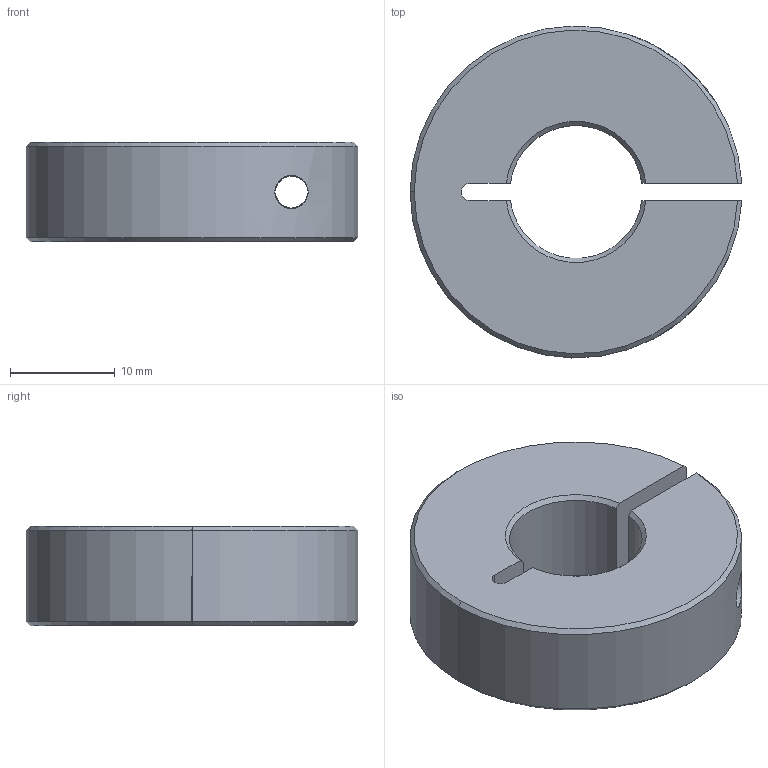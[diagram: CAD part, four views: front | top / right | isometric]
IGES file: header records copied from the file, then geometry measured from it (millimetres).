
Global section: file name: C:\Documents and Settings\Administrator\Desktop\Transfer Temp\collar0500.igs; native system: AutoDesk Inventor R2.0 ; preprocessor: AutoDesk Inventor Iges Exporter R2.0; author: No Author specified; organization: No Organization specified; date: 20011207.202139; units: inch
Bounding box: 31.73 x 31.74 x 9.53 mm (x, y, z)
Surface area: 3074 mm2 (no closed solid volume)
Topology: 0 solids, 0 shells, 26 faces, 134 edges, 134 vertices
Faces by surface type: revolution 15, bspline 11
